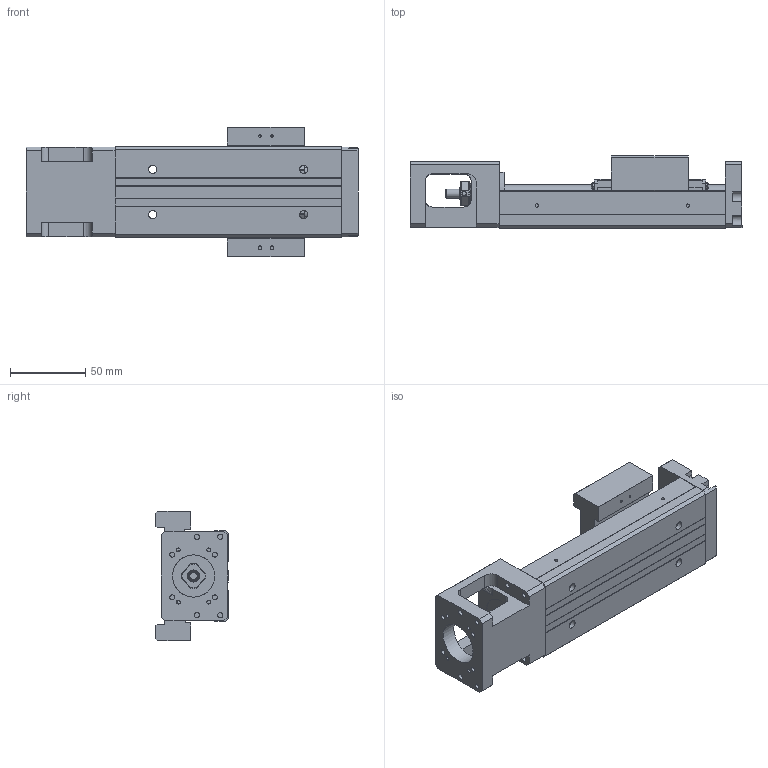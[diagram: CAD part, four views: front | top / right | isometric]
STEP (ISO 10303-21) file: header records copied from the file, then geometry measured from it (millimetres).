
FILE_DESCRIPTION(/* description */ (''),/* implementation_level */ '2;1');
FILE_NAME(/* name */ '33L-150.stp',/* time_stamp */ '2016-12-20T13:15:14+08:00',/* author */ (''),/* organization */ (''),/* preprocessor_version */ 'ST-DEVELOPER v11',/* originating_system */ 'SIEMENS UGS NX 6.0',/* authorisation */ '');
FILE_SCHEMA (('AUTOMOTIVE_DESIGN { 1 0 10303 214 1 1 1 1 }'));
Length unit declared in the file: millimetre
Products named in the file (1): model4
Bounding box: 220 x 47.95 x 86 mm (x, y, z)
Volume: 369852.1 mm3; surface area: 103026.9 mm2
Topology: 6 solids, 11 shells, 656 faces, 1674 edges, 1106 vertices
Faces by surface type: plane 396, cylinder 173, bspline 31, cone 24, extrusion 21, torus 9, revolution 2
Full cylindrical faces by diameter (mm): 1.6 x3, 1.65 x4, 2.15 x2, 2.42 x4, 2.45 x4, 2.5 x10, 3 x3, 3.2 x4, 3.3 x4, 3.4 x3, 3.5 x10, 3.969 x1, 4 x6, 4.001 x1, 4.135 x4, 4.2 x4, 5.5 x4, 6 x5, 7.6 x1, 8 x5, 9.5 x4, 10.72 x3, 11.8 x2, 12 x1, 12.8 x1, 13 x2, 14 x1, 17.38 x3, 21.5 x1, 22 x2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
Entity records: 34898 total; most frequent: CARTESIAN_POINT 16119, DIRECTION 2998, ORIENTED_EDGE 2936, EDGE_CURVE 1468, AXIS2_PLACEMENT_3D 1040, VERTEX_POINT 1037, EDGE_LOOP 923, VECTOR 916
